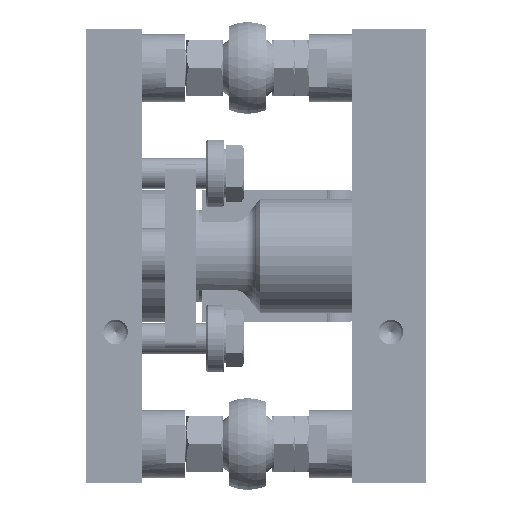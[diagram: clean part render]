
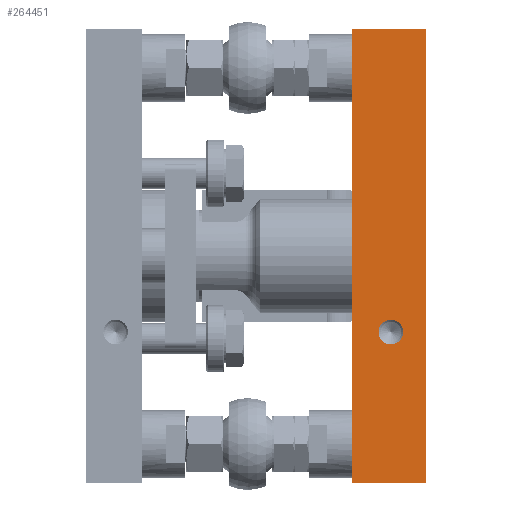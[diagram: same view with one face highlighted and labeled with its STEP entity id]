
A CAD part, left-side view. The second image highlights one B-rep face of the part: STEP entity #264451.
In plain terms, the highlighted planar face has unit normal (-1, 0, 0).
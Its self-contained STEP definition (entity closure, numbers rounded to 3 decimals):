
#11335 = EDGE_CURVE ( 'NONE', #332009, #359092, #228807, .T. ) ;
#16571 = VECTOR ( 'NONE', #214696, 1000. ) ;
#20283 = DIRECTION ( 'NONE',  ( 0., 0., 1. ) ) ;
#27101 = DIRECTION ( 'NONE',  ( 0., 0., 1. ) ) ;
#45028 = CARTESIAN_POINT ( 'NONE',  ( -127.975, 0., 74. ) ) ;
#75366 = EDGE_CURVE ( 'NONE', #385974, #287302, #89328, .T. ) ;
#75513 = CARTESIAN_POINT ( 'NONE',  ( -127.975, -24., 74. ) ) ;
#79039 = CIRCLE ( 'NONE', #293392, 4.025 ) ;
#82451 = DIRECTION ( 'NONE',  ( 0., 1., 0. ) ) ;
#88955 = FACE_BOUND ( 'NONE', #116725, .T. ) ;
#89328 = CIRCLE ( 'NONE', #111632, 4.025 ) ;
#92551 = CARTESIAN_POINT ( 'NONE',  ( -127.975, -24., -74. ) ) ;
#92989 = CARTESIAN_POINT ( 'NONE',  ( -127.975, -24., -74. ) ) ;
#95936 = CARTESIAN_POINT ( 'NONE',  ( -127.975, -12.7, -20.775 ) ) ;
#101392 = EDGE_LOOP ( 'NONE', ( #233763, #385608, #205827, #295114 ) ) ;
#111632 = AXIS2_PLACEMENT_3D ( 'NONE', #138787, #350470, #169243 ) ;
#116725 = EDGE_LOOP ( 'NONE', ( #282662, #311877 ) ) ;
#132806 = EDGE_CURVE ( 'NONE', #175608, #359092, #151920, .T. ) ;
#134279 = EDGE_CURVE ( 'NONE', #289831, #175608, #212678, .T. ) ;
#138787 = CARTESIAN_POINT ( 'NONE',  ( -127.975, -12.7, -24.8 ) ) ;
#147584 = CARTESIAN_POINT ( 'NONE',  ( -127.975, 0., -74. ) ) ;
#148225 = VECTOR ( 'NONE', #82451, 1000. ) ;
#151920 = LINE ( 'NONE', #147584, #303443 ) ;
#169243 = DIRECTION ( 'NONE',  ( 0., 0., 1. ) ) ;
#171250 = PLANE ( 'NONE',  #225982 ) ;
#175608 = VERTEX_POINT ( 'NONE', #380082 ) ;
#177614 = LINE ( 'NONE', #92989, #16571 ) ;
#178446 = CARTESIAN_POINT ( 'NONE',  ( -127.975, -12.7, -24.8 ) ) ;
#201637 = DIRECTION ( 'NONE',  ( -1., 0., 0. ) ) ;
#205827 = ORIENTED_EDGE ( 'NONE', *, *, #313433, .T. ) ;
#208859 = DIRECTION ( 'NONE',  ( 0., 0., 1. ) ) ;
#212678 = LINE ( 'NONE', #354505, #373666 ) ;
#214696 = DIRECTION ( 'NONE',  ( 0., 0., 1. ) ) ;
#225982 = AXIS2_PLACEMENT_3D ( 'NONE', #261095, #201637, #20283 ) ;
#228807 = LINE ( 'NONE', #384133, #148225 ) ;
#233763 = ORIENTED_EDGE ( 'NONE', *, *, #132806, .F. ) ;
#246516 = CARTESIAN_POINT ( 'NONE',  ( -127.975, -12.7, -28.825 ) ) ;
#249997 = FACE_OUTER_BOUND ( 'NONE', #101392, .T. ) ;
#261095 = CARTESIAN_POINT ( 'NONE',  ( -127.975, -24., -74. ) ) ;
#264451 = ADVANCED_FACE ( 'NONE', ( #88955, #249997 ), #171250, .T. ) ;
#282662 = ORIENTED_EDGE ( 'NONE', *, *, #75366, .F. ) ;
#287302 = VERTEX_POINT ( 'NONE', #246516 ) ;
#289831 = VERTEX_POINT ( 'NONE', #92551 ) ;
#293392 = AXIS2_PLACEMENT_3D ( 'NONE', #178446, #390101, #208859 ) ;
#295114 = ORIENTED_EDGE ( 'NONE', *, *, #11335, .T. ) ;
#303443 = VECTOR ( 'NONE', #27101, 1000. ) ;
#311877 = ORIENTED_EDGE ( 'NONE', *, *, #386638, .F. ) ;
#313433 = EDGE_CURVE ( 'NONE', #289831, #332009, #177614, .T. ) ;
#332009 = VERTEX_POINT ( 'NONE', #75513 ) ;
#350470 = DIRECTION ( 'NONE',  ( -1., 0., 0. ) ) ;
#354505 = CARTESIAN_POINT ( 'NONE',  ( -127.975, -24., -74. ) ) ;
#359092 = VERTEX_POINT ( 'NONE', #45028 ) ;
#373666 = VECTOR ( 'NONE', #384904, 1000. ) ;
#380082 = CARTESIAN_POINT ( 'NONE',  ( -127.975, 0., -74. ) ) ;
#384133 = CARTESIAN_POINT ( 'NONE',  ( -127.975, -24., 74. ) ) ;
#384904 = DIRECTION ( 'NONE',  ( 0., 1., 0. ) ) ;
#385608 = ORIENTED_EDGE ( 'NONE', *, *, #134279, .F. ) ;
#385974 = VERTEX_POINT ( 'NONE', #95936 ) ;
#386638 = EDGE_CURVE ( 'NONE', #287302, #385974, #79039, .T. ) ;
#390101 = DIRECTION ( 'NONE',  ( -1., 0., 0. ) ) ;
